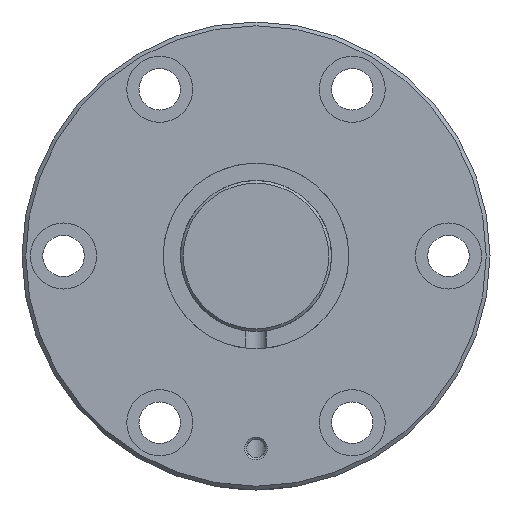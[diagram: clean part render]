
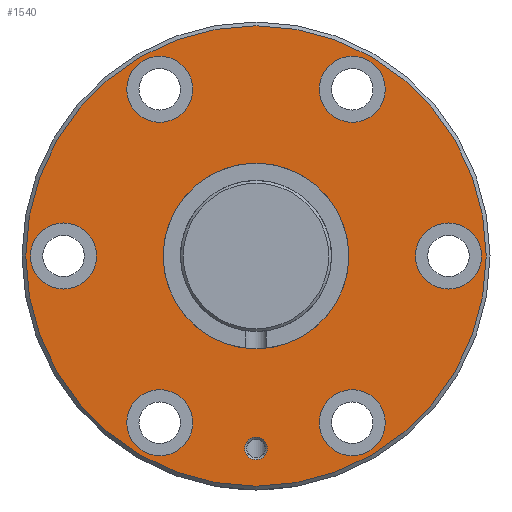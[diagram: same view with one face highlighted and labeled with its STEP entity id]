
A CAD part, left-side view. The second image highlights one B-rep face of the part: STEP entity #1540.
In plain terms, the highlighted planar face has unit normal (-1, 0, 0).
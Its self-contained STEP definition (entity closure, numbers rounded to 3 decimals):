
#259=ORIENTED_EDGE('',*,*,#611,.T.);
#260=ORIENTED_EDGE('',*,*,#643,.T.);
#261=ORIENTED_EDGE('',*,*,#644,.T.);
#262=ORIENTED_EDGE('',*,*,#645,.T.);
#263=ORIENTED_EDGE('',*,*,#646,.T.);
#264=ORIENTED_EDGE('',*,*,#647,.T.);
#265=ORIENTED_EDGE('',*,*,#648,.T.);
#266=ORIENTED_EDGE('',*,*,#649,.T.);
#267=ORIENTED_EDGE('',*,*,#642,.F.);
#611=EDGE_CURVE('',#807,#807,#951,.T.);
#642=EDGE_CURVE('',#838,#838,#954,.T.);
#643=EDGE_CURVE('',#839,#839,#955,.F.);
#644=EDGE_CURVE('',#840,#840,#956,.T.);
#645=EDGE_CURVE('',#841,#841,#957,.T.);
#646=EDGE_CURVE('',#842,#842,#958,.T.);
#647=EDGE_CURVE('',#843,#843,#959,.T.);
#648=EDGE_CURVE('',#844,#844,#960,.T.);
#649=EDGE_CURVE('',#845,#845,#961,.T.);
#807=VERTEX_POINT('',#2555);
#838=VERTEX_POINT('',#2701);
#839=VERTEX_POINT('',#2704);
#840=VERTEX_POINT('',#2706);
#841=VERTEX_POINT('',#2708);
#842=VERTEX_POINT('',#2710);
#843=VERTEX_POINT('',#2712);
#844=VERTEX_POINT('',#2714);
#845=VERTEX_POINT('',#2716);
#951=CIRCLE('',#1683,24.6);
#954=CIRCLE('',#1690,61.);
#955=CIRCLE('',#1692,8.75);
#956=CIRCLE('',#1693,3.);
#957=CIRCLE('',#1694,8.75);
#958=CIRCLE('',#1695,8.75);
#959=CIRCLE('',#1696,8.75);
#960=CIRCLE('',#1697,8.75);
#961=CIRCLE('',#1698,8.75);
#1107=EDGE_LOOP('',(#259));
#1108=EDGE_LOOP('',(#260));
#1109=EDGE_LOOP('',(#261));
#1110=EDGE_LOOP('',(#262));
#1111=EDGE_LOOP('',(#263));
#1112=EDGE_LOOP('',(#264));
#1113=EDGE_LOOP('',(#265));
#1114=EDGE_LOOP('',(#266));
#1115=EDGE_LOOP('',(#267));
#1307=FACE_BOUND('',#1107,.T.);
#1308=FACE_BOUND('',#1108,.T.);
#1309=FACE_BOUND('',#1109,.T.);
#1310=FACE_BOUND('',#1110,.T.);
#1311=FACE_BOUND('',#1111,.T.);
#1312=FACE_BOUND('',#1112,.T.);
#1313=FACE_BOUND('',#1113,.T.);
#1314=FACE_BOUND('',#1114,.T.);
#1315=FACE_BOUND('',#1115,.T.);
#1478=PLANE('',#1691);
#1540=ADVANCED_FACE('',(#1307,#1308,#1309,#1310,#1311,#1312,#1313,#1314,
#1315),#1478,.T.);
#1683=AXIS2_PLACEMENT_3D('',#2554,#1959,#1960);
#1690=AXIS2_PLACEMENT_3D('',#2700,#1993,#1994);
#1691=AXIS2_PLACEMENT_3D('',#2702,#1995,#1996);
#1692=AXIS2_PLACEMENT_3D('',#2703,#1997,#1998);
#1693=AXIS2_PLACEMENT_3D('',#2705,#1999,#2000);
#1694=AXIS2_PLACEMENT_3D('',#2707,#2001,#2002);
#1695=AXIS2_PLACEMENT_3D('',#2709,#2003,#2004);
#1696=AXIS2_PLACEMENT_3D('',#2711,#2005,#2006);
#1697=AXIS2_PLACEMENT_3D('',#2713,#2007,#2008);
#1698=AXIS2_PLACEMENT_3D('',#2715,#2009,#2010);
#1959=DIRECTION('',(1.,0.,0.));
#1960=DIRECTION('',(0.,0.,-1.));
#1993=DIRECTION('',(1.,0.,0.));
#1994=DIRECTION('',(0.,0.,-1.));
#1995=DIRECTION('',(-1.,0.,0.));
#1996=DIRECTION('',(0.,0.,1.));
#1997=DIRECTION('',(-1.,0.,0.));
#1998=DIRECTION('',(0.,0.,1.));
#1999=DIRECTION('',(1.,0.,0.));
#2000=DIRECTION('',(0.,1.,0.));
#2001=DIRECTION('',(1.,0.,0.));
#2002=DIRECTION('',(0.,0.,-1.));
#2003=DIRECTION('',(1.,0.,0.));
#2004=DIRECTION('',(0.,0.,-1.));
#2005=DIRECTION('',(1.,0.,0.));
#2006=DIRECTION('',(0.,0.,-1.));
#2007=DIRECTION('',(1.,0.,0.));
#2008=DIRECTION('',(0.,0.,-1.));
#2009=DIRECTION('',(1.,0.,0.));
#2010=DIRECTION('',(0.,0.,-1.));
#2554=CARTESIAN_POINT('',(0.,0.,0.));
#2555=CARTESIAN_POINT('',(0.,0.,-24.6));
#2700=CARTESIAN_POINT('',(0.,0.,0.));
#2701=CARTESIAN_POINT('',(0.,0.,-61.));
#2702=CARTESIAN_POINT('',(0.,61.,0.));
#2703=CARTESIAN_POINT('',(0.,51.,0.));
#2704=CARTESIAN_POINT('',(0.,51.,8.75));
#2705=CARTESIAN_POINT('',(0.,0.,-51.));
#2706=CARTESIAN_POINT('',(0.,3.,-51.));
#2707=CARTESIAN_POINT('',(0.,25.5,44.167));
#2708=CARTESIAN_POINT('',(0.,25.5,35.417));
#2709=CARTESIAN_POINT('',(0.,-25.5,-44.167));
#2710=CARTESIAN_POINT('',(0.,-25.5,-52.917));
#2711=CARTESIAN_POINT('',(0.,-25.5,44.167));
#2712=CARTESIAN_POINT('',(0.,-25.5,35.417));
#2713=CARTESIAN_POINT('',(0.,25.5,-44.167));
#2714=CARTESIAN_POINT('',(0.,25.5,-52.917));
#2715=CARTESIAN_POINT('',(0.,-51.,0.));
#2716=CARTESIAN_POINT('',(0.,-51.,-8.75));
